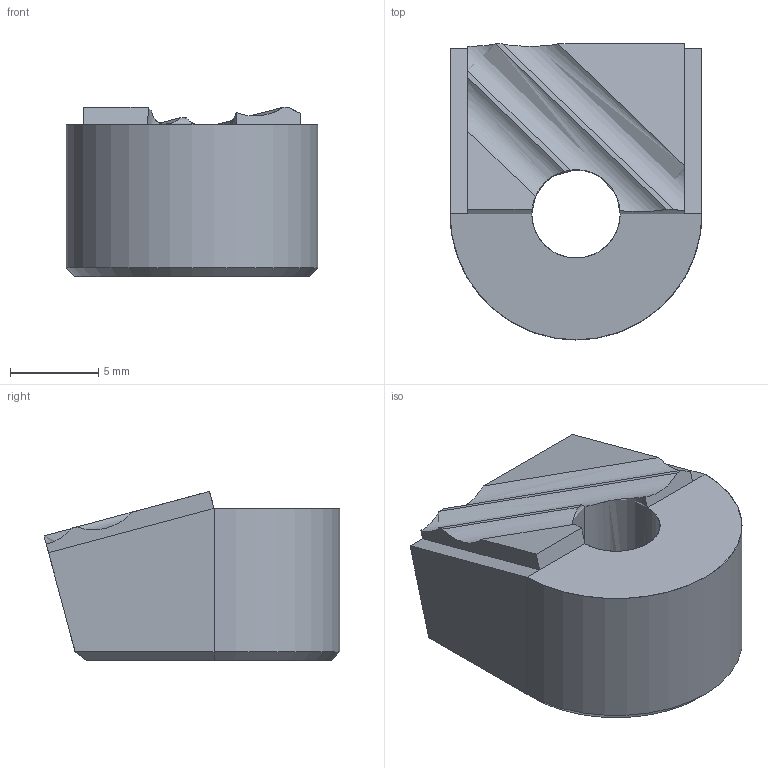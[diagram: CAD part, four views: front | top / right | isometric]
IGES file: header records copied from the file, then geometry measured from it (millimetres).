
Start section: SolidWorks IGES FILE using analytic representation for surfaces
Global section: file name: C:\WIX2\Positioning\3550\3550W007.igs; native system: SolidWorks 2003 by SolidWorks Corporation; preprocessor: Version 5.3; author: Joan; date: 030722.164440; units: millimetre
Bounding box: 14.28 x 16.77 x 9.59 mm (x, y, z)
Surface area: 946.9 mm2 (no closed solid volume)
Topology: 0 solids, 0 shells, 25 faces, 296 edges, 296 vertices
Faces by surface type: bspline 18, revolution 7
